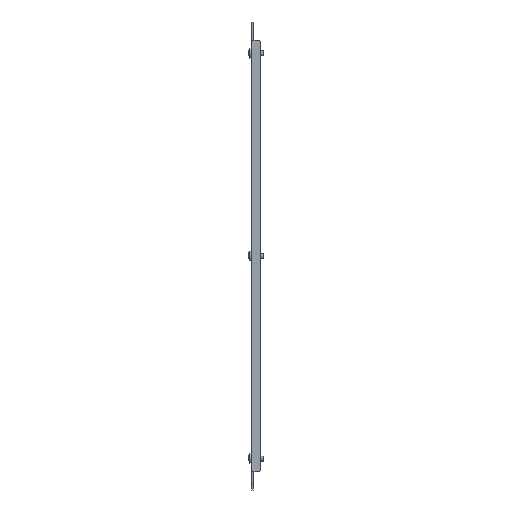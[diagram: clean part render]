
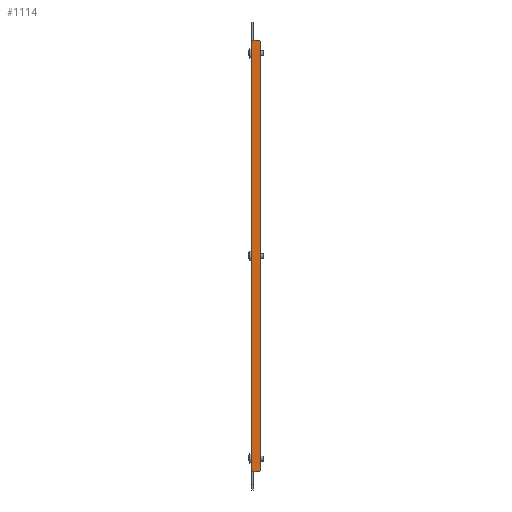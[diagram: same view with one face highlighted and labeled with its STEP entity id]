
A CAD part, left-side view. The second image highlights one B-rep face of the part: STEP entity #1114.
In plain terms, the highlighted planar face has unit normal (-1, 0, 0) as drawn and (1, 0, 0) by its records, which use the part's own axes.
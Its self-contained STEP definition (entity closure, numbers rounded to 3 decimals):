
#42 = CARTESIAN_POINT ( 'NONE',  ( 134., -213., 0. ) ) ;
#200 = DIRECTION ( 'NONE',  ( 0., 0., 1. ) ) ;
#213 = VECTOR ( 'NONE', #2024, 1000. ) ;
#269 = CARTESIAN_POINT ( 'NONE',  ( 134., -213., -2.1 ) ) ;
#278 = CARTESIAN_POINT ( 'NONE',  ( 134., -212., -9. ) ) ;
#372 = CARTESIAN_POINT ( 'NONE',  ( 134., 213., 0. ) ) ;
#436 = CARTESIAN_POINT ( 'NONE',  ( 134., 213., -8. ) ) ;
#481 = DIRECTION ( 'NONE',  ( -1., 0., 0. ) ) ;
#565 = VECTOR ( 'NONE', #2259, 1000. ) ;
#606 = EDGE_CURVE ( 'NONE', #1593, #1262, #1406, .T. ) ;
#713 = CARTESIAN_POINT ( 'NONE',  ( 134., 213., -8. ) ) ;
#730 = VERTEX_POINT ( 'NONE', #269 ) ;
#757 = CARTESIAN_POINT ( 'NONE',  ( 134., -213., 0. ) ) ;
#780 = CARTESIAN_POINT ( 'NONE',  ( 134., 0., -9. ) ) ;
#791 = VECTOR ( 'NONE', #1260, 1000. ) ;
#794 = VECTOR ( 'NONE', #1403, 1000. ) ;
#883 = VECTOR ( 'NONE', #1379, 1000. ) ;
#886 = CARTESIAN_POINT ( 'NONE',  ( 134., -212., -9. ) ) ;
#887 = CARTESIAN_POINT ( 'NONE',  ( 134., -213., 0. ) ) ;
#904 = ORIENTED_EDGE ( 'NONE', *, *, #2740, .T. ) ;
#1081 = CARTESIAN_POINT ( 'NONE',  ( 134., 213., 0. ) ) ;
#1114 = ADVANCED_FACE ( 'NONE', ( #2337 ), #3013, .F. ) ;
#1131 = VERTEX_POINT ( 'NONE', #436 ) ;
#1132 = DIRECTION ( 'NONE',  ( 0., 0.707, -0.707 ) ) ;
#1133 = EDGE_CURVE ( 'NONE', #2244, #1131, #1628, .T. ) ;
#1234 = VECTOR ( 'NONE', #1715, 1000. ) ;
#1260 = DIRECTION ( 'NONE',  ( 0., 1., 0. ) ) ;
#1262 = VERTEX_POINT ( 'NONE', #278 ) ;
#1268 = EDGE_CURVE ( 'NONE', #730, #1593, #2597, .T. ) ;
#1278 = VERTEX_POINT ( 'NONE', #2156 ) ;
#1281 = ORIENTED_EDGE ( 'NONE', *, *, #1133, .T. ) ;
#1379 = DIRECTION ( 'NONE',  ( 0., 0.707, 0.707 ) ) ;
#1403 = DIRECTION ( 'NONE',  ( 0., -1., 0. ) ) ;
#1406 = LINE ( 'NONE', #886, #1433 ) ;
#1431 = EDGE_LOOP ( 'NONE', ( #1741, #1281, #1487, #904, #2512, #2898, #2600, #2836 ) ) ;
#1433 = VECTOR ( 'NONE', #1132, 1000. ) ;
#1452 = CARTESIAN_POINT ( 'NONE',  ( 134., 212., -9. ) ) ;
#1473 = EDGE_CURVE ( 'NONE', #1131, #1278, #2718, .T. ) ;
#1487 = ORIENTED_EDGE ( 'NONE', *, *, #1473, .T. ) ;
#1593 = VERTEX_POINT ( 'NONE', #2759 ) ;
#1595 = LINE ( 'NONE', #2005, #565 ) ;
#1628 = LINE ( 'NONE', #713, #883 ) ;
#1697 = VERTEX_POINT ( 'NONE', #372 ) ;
#1715 = DIRECTION ( 'NONE',  ( 0., 0., -1. ) ) ;
#1741 = ORIENTED_EDGE ( 'NONE', *, *, #1837, .T. ) ;
#1837 = EDGE_CURVE ( 'NONE', #1262, #2244, #2883, .T. ) ;
#1840 = CARTESIAN_POINT ( 'NONE',  ( 134., 0., 0. ) ) ;
#1855 = CARTESIAN_POINT ( 'NONE',  ( 134., 0., 0. ) ) ;
#2005 = CARTESIAN_POINT ( 'NONE',  ( 134., 213., -2.1 ) ) ;
#2024 = DIRECTION ( 'NONE',  ( 0., 0., 1. ) ) ;
#2156 = CARTESIAN_POINT ( 'NONE',  ( 134., 213., -2.1 ) ) ;
#2189 = EDGE_CURVE ( 'NONE', #1697, #2810, #2369, .T. ) ;
#2214 = AXIS2_PLACEMENT_3D ( 'NONE', #1840, #481, #200 ) ;
#2244 = VERTEX_POINT ( 'NONE', #1452 ) ;
#2259 = DIRECTION ( 'NONE',  ( 0., 0., 1. ) ) ;
#2337 = FACE_OUTER_BOUND ( 'NONE', #1431, .T. ) ;
#2369 = LINE ( 'NONE', #1855, #794 ) ;
#2512 = ORIENTED_EDGE ( 'NONE', *, *, #2189, .T. ) ;
#2577 = DIRECTION ( 'NONE',  ( 0., 0., 1. ) ) ;
#2597 = LINE ( 'NONE', #757, #1234 ) ;
#2600 = ORIENTED_EDGE ( 'NONE', *, *, #1268, .T. ) ;
#2718 = LINE ( 'NONE', #1081, #213 ) ;
#2740 = EDGE_CURVE ( 'NONE', #1278, #1697, #1595, .T. ) ;
#2759 = CARTESIAN_POINT ( 'NONE',  ( 134., -213., -8. ) ) ;
#2800 = LINE ( 'NONE', #42, #2918 ) ;
#2810 = VERTEX_POINT ( 'NONE', #887 ) ;
#2836 = ORIENTED_EDGE ( 'NONE', *, *, #606, .T. ) ;
#2883 = LINE ( 'NONE', #780, #791 ) ;
#2898 = ORIENTED_EDGE ( 'NONE', *, *, #2909, .F. ) ;
#2909 = EDGE_CURVE ( 'NONE', #730, #2810, #2800, .T. ) ;
#2918 = VECTOR ( 'NONE', #2577, 1000. ) ;
#3013 = PLANE ( 'NONE',  #2214 ) ;
